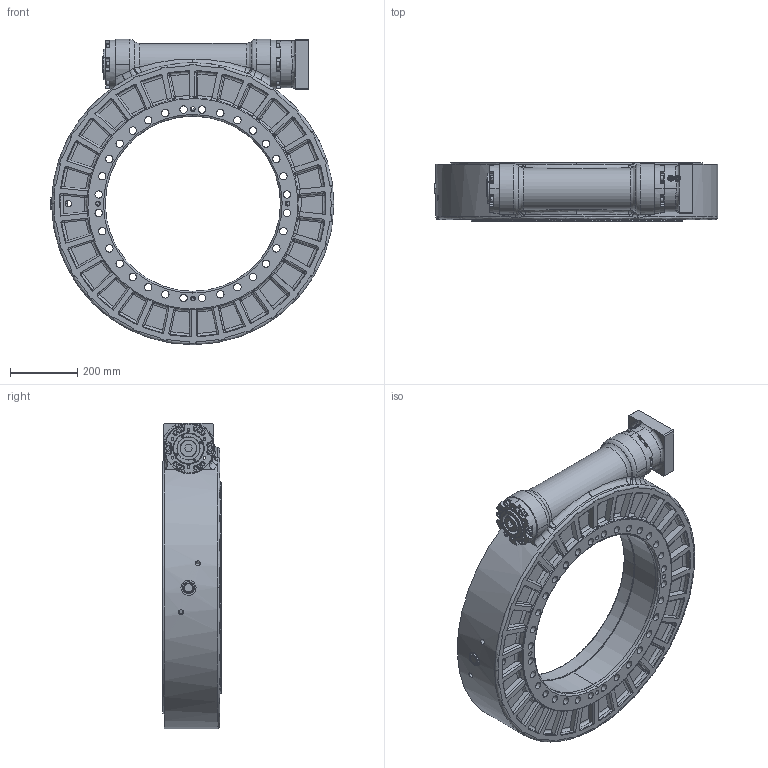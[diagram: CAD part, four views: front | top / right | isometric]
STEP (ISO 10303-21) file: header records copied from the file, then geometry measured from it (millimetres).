
FILE_DESCRIPTION (( 'STEP AP214' ), '1' );
FILE_NAME ('HC415HP-60R-130165-M10-40.STEP', '2022-06-25T01:50:44', ( 'Windows User' ), ( 'P R C' ), 'SwSTEP 2.0', 'SolidWorks 2020', '' );
FILE_SCHEMA (( 'AUTOMOTIVE_DESIGN' ));
Length unit declared in the file: millimetre
Products named in the file (1): HC415HP-60R-130165-M10-40
Bounding box: 845 x 175 x 910 mm (x, y, z)
Surface area: 2644758.3 mm2 (no closed solid volume)
Topology: 0 solids, 66 shells, 1498 faces, 4478 edges, 2965 vertices
Faces by surface type: cylinder 677, plane 458, bspline 287, torus 46, cone 30
Entity records: 99084 total; most frequent: CARTESIAN_POINT 44937, ORIENTED_EDGE 7906, DIRECTION 7226, EDGE_CURVE 4435, VERTEX_POINT 2959, AXIS2_PLACEMENT_3D 2722, LINE 1782, VECTOR 1782
